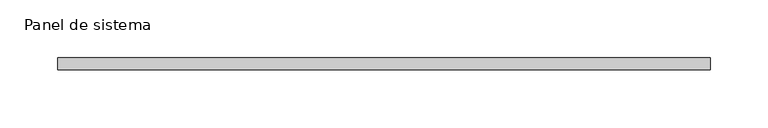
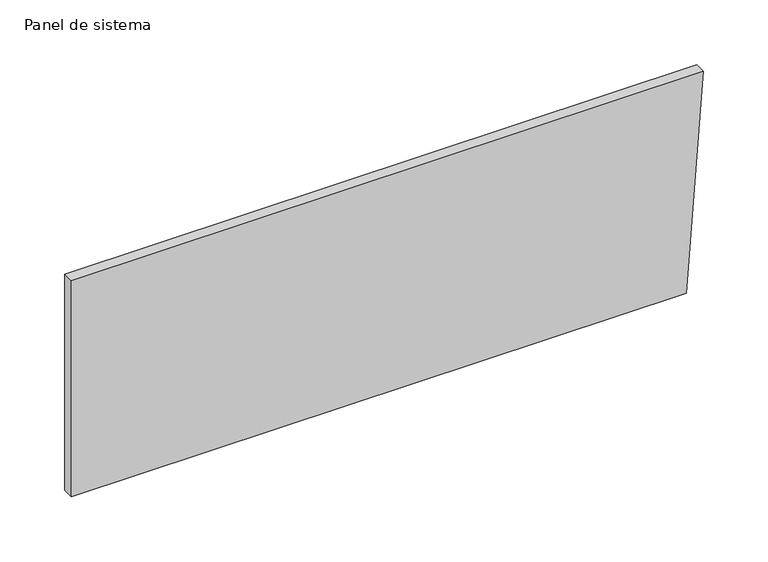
"""IFC4 building model written with IfcOpenShell, lengths in millimetres: plate geometry, Panel de sistema : Acristalado Superor."""

from ifc_helpers import new_model, si_unit, frame, origin, place, context, project, spatial, polyline, outline, extrude, source, transform, mapped, element, save


def panel_de_sistema_565d0dc5(model_context):
    return source(origin(), model_context, "Body", "SweptSolid", [
        extrude(outline(polyline([(0.0, -281.2488646), (0.0, 266.3765546), (203.5244088, 281.2488646), (203.5244088, -281.2488646), (0.0, -281.2488646)])), frame((0.0, -25.0, 0.0), z_axis=(0.0, 1.0, 0.0), x_axis=(0.0, 0.0, 1.0)), (0.0, 0.0, 1.0), 10.0),
    ])


if __name__ == "__main__":
    model = new_model("IFC4")
    model_context = context("Model", 3, world=origin())
    ifc_project = project(units=[si_unit("LENGTHUNIT", "METRE", prefix="MILLI")], contexts=[model_context])
    site = spatial("IfcSite", under=ifc_project)
    building = spatial("IfcBuilding", under=site)
    placement = place(None, origin())
    panel_de_sistema_shape = panel_de_sistema_565d0dc5(model_context)
    element("IfcPlate", 1, ObjectType="Panel de sistema : Acristalado Superor", at=placement, inside=building, context=model_context, shape_type="MappedRepresentation", body=[
        mapped(panel_de_sistema_shape, transform((0.0, 0.0, 0.0), x_axis=(1.0, 0.0, 0.0), y_axis=(0.0, 1.0, 0.0), z_axis=(0.0, 0.0, 1.0))),
    ])
    save(model, "model.ifc")
